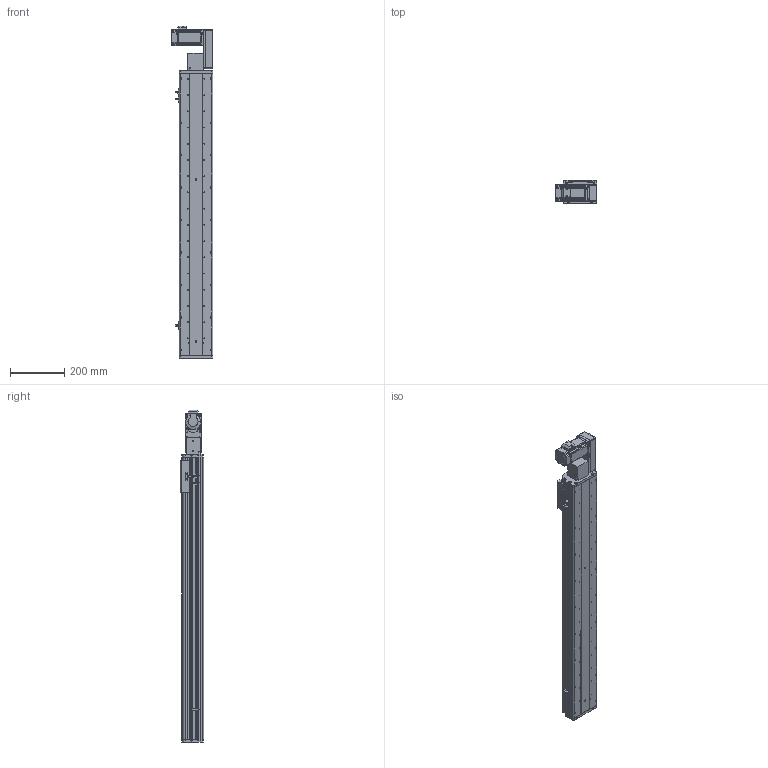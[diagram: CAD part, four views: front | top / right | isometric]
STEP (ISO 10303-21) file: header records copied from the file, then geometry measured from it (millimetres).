
FILE_DESCRIPTION (( 'STEP AP214' ), '1' );
FILE_NAME ('KSD125B-S850-MLB-CM.STEP', '2017-10-21T01:46:14', ( '微软用户' ), ( '微软中国' ), 'SwSTEP 2.0', 'SolidWorks 2014', '' );
FILE_SCHEMA (( 'AUTOMOTIVE_DESIGN' ));
Length unit declared in the file: millimetre
Products named in the file (17): 125模组850行程同步带-底板; MHMD042G1CA_2_03; KSD125模组同步带-防撞垫2; 覜茼え68遵圉猾敕; U倰嫖萇假蚾璃; U倰嫖萇EEㄜSX672; KSD125模组同步带-防撞垫1; 前端板-125宽模组同步带; 125模组同步带-尾端板1; KSD125模组同步带-滑动座1; KSD125B-S850-MLB-CM; 悵誘欶奻狟殏; HTPA30S3M150_A_H6_a佪裝蚚; HTPA30S3M150_A_H6_a萇儂蚚; 100宽马达安装板连板上下折丝杆同步带; 100宽马达安装板同步带左; KSD125模组850行程同步带-防尘盖
Assembly tree (20 placements, depth 2):
  KSD125B-S850-MLB-CM
    KSD125模组同步带-滑动座1
    125模组同步带-尾端板1
    前端板-125宽模组同步带
    KSD125模组同步带-防撞垫1
    U倰嫖萇EEㄜSX672  x3
    U倰嫖萇假蚾璃  x3
    覜茼え68遵圉猾敕
    KSD125模组同步带-防撞垫2
    MHMD042G1CA_2_03
    125模组850行程同步带-底板
    KSD125模组850行程同步带-防尘盖
    100宽马达安装板同步带左
    100宽马达安装板连板上下折丝杆同步带
    HTPA30S3M150_A_H6_a萇儂蚚
    HTPA30S3M150_A_H6_a佪裝蚚
    悵誘欶奻狟殏
Bounding box: 155 x 86 x 1228 mm (x, y, z)
Volume: 3525332.7 mm3; surface area: 1194358.6 mm2
Topology: 19 solids, 22 shells, 2293 faces, 6643 edges, 4390 vertices
Faces by surface type: cylinder 1440, plane 726, cone 105, bspline 22
Entity records: 81593 total; most frequent: CARTESIAN_POINT 16101, DIRECTION 12684, ORIENTED_EDGE 11806, EDGE_CURVE 5981, AXIS2_PLACEMENT_3D 4905, VERTEX_POINT 3982, LINE 2874, VECTOR 2874
